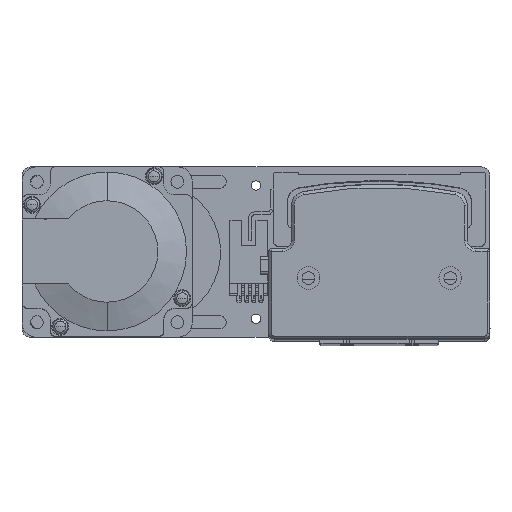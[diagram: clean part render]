
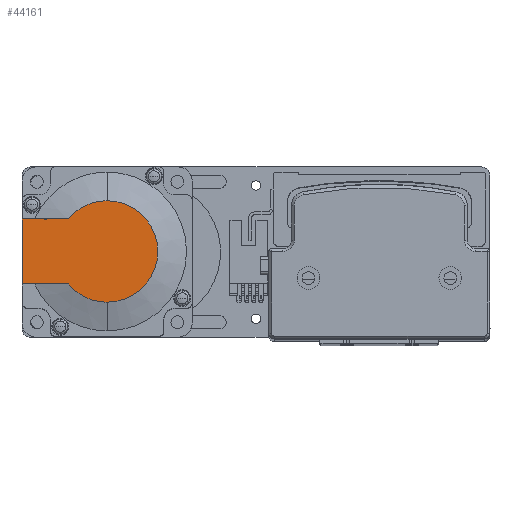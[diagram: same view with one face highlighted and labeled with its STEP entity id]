
A CAD part, top view. The second image highlights one B-rep face of the part: STEP entity #44161.
In plain terms, the highlighted planar face has unit normal (0, 0, 1) as drawn and (-1, 0, 0) by its records, which use the part's own axes.
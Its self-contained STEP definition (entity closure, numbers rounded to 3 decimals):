
#663 = VERTEX_POINT ( 'NONE', #9203 ) ;
#1043 = FACE_OUTER_BOUND ( 'NONE', #35519, .T. ) ;
#1990 = ORIENTED_EDGE ( 'NONE', *, *, #18536, .F. ) ;
#3435 = CARTESIAN_POINT ( 'NONE',  ( -118.5, 0., 0. ) ) ;
#3656 = AXIS2_PLACEMENT_3D ( 'NONE', #3435, #29713, #7281 ) ;
#3852 = CIRCLE ( 'NONE', #3656, 17.881 ) ;
#3861 = CIRCLE ( 'NONE', #14022, 17.881 ) ;
#4389 = ORIENTED_EDGE ( 'NONE', *, *, #28679, .T. ) ;
#4636 = AXIS2_PLACEMENT_3D ( 'NONE', #16061, #41977, #19861 ) ;
#5459 = CARTESIAN_POINT ( 'NONE',  ( -118.5, 30., -11.45 ) ) ;
#6891 = CARTESIAN_POINT ( 'NONE',  ( -118.5, 0., 0. ) ) ;
#7281 = DIRECTION ( 'NONE',  ( 0., 0., -1. ) ) ;
#8362 = CARTESIAN_POINT ( 'NONE',  ( -118.5, -8.941, -11.45 ) ) ;
#9203 = CARTESIAN_POINT ( 'NONE',  ( -118.5, 13.735, 11.45 ) ) ;
#10681 = DIRECTION ( 'NONE',  ( 0., 0., -1. ) ) ;
#10762 = VERTEX_POINT ( 'NONE', #5459 ) ;
#12080 = VERTEX_POINT ( 'NONE', #32711 ) ;
#12226 = VECTOR ( 'NONE', #15924, 1000. ) ;
#13155 = VERTEX_POINT ( 'NONE', #36417 ) ;
#13906 = CARTESIAN_POINT ( 'NONE',  ( -118.5, 0., -17.881 ) ) ;
#14022 = AXIS2_PLACEMENT_3D ( 'NONE', #6891, #33022, #10681 ) ;
#15924 = DIRECTION ( 'NONE',  ( 0., -1., 0. ) ) ;
#16061 = CARTESIAN_POINT ( 'NONE',  ( -118.5, 0., 0. ) ) ;
#16162 = EDGE_CURVE ( 'NONE', #10762, #12080, #41839, .T. ) ;
#16381 = VERTEX_POINT ( 'NONE', #39941 ) ;
#17677 = VECTOR ( 'NONE', #23958, 1000. ) ;
#17678 = VECTOR ( 'NONE', #37461, 1000. ) ;
#18043 = ORIENTED_EDGE ( 'NONE', *, *, #23261, .T. ) ;
#18536 = EDGE_CURVE ( 'NONE', #16381, #663, #27587, .T. ) ;
#18728 = DIRECTION ( 'NONE',  ( -1., 0., 0. ) ) ;
#19861 = DIRECTION ( 'NONE',  ( 0., 0., -1. ) ) ;
#22824 = EDGE_CURVE ( 'NONE', #12080, #33964, #3852, .T. ) ;
#23261 = EDGE_CURVE ( 'NONE', #13155, #663, #3861, .T. ) ;
#23958 = DIRECTION ( 'NONE',  ( 0., 0., 1. ) ) ;
#24069 = AXIS2_PLACEMENT_3D ( 'NONE', #40891, #18728, #44559 ) ;
#27587 = LINE ( 'NONE', #33757, #17678 ) ;
#28679 = EDGE_CURVE ( 'NONE', #33964, #13155, #35961, .T. ) ;
#29713 = DIRECTION ( 'NONE',  ( -1., 0., 0. ) ) ;
#31586 = CARTESIAN_POINT ( 'NONE',  ( -118.5, 30., 25. ) ) ;
#32114 = EDGE_CURVE ( 'NONE', #10762, #16381, #36275, .T. ) ;
#32711 = CARTESIAN_POINT ( 'NONE',  ( -118.5, 13.735, -11.45 ) ) ;
#33022 = DIRECTION ( 'NONE',  ( -1., 0., 0. ) ) ;
#33757 = CARTESIAN_POINT ( 'NONE',  ( -118.5, 0., 11.45 ) ) ;
#33964 = VERTEX_POINT ( 'NONE', #13906 ) ;
#34862 = ORIENTED_EDGE ( 'NONE', *, *, #22824, .T. ) ;
#35519 = EDGE_LOOP ( 'NONE', ( #40462, #34862, #4389, #18043, #1990, #38085 ) ) ;
#35961 = CIRCLE ( 'NONE', #4636, 17.881 ) ;
#36275 = LINE ( 'NONE', #31586, #17677 ) ;
#36417 = CARTESIAN_POINT ( 'NONE',  ( -118.5, 0., 17.881 ) ) ;
#37033 = PLANE ( 'NONE',  #24069 ) ;
#37461 = DIRECTION ( 'NONE',  ( 0., -1., 0. ) ) ;
#38085 = ORIENTED_EDGE ( 'NONE', *, *, #32114, .F. ) ;
#39941 = CARTESIAN_POINT ( 'NONE',  ( -118.5, 30., 11.45 ) ) ;
#40462 = ORIENTED_EDGE ( 'NONE', *, *, #16162, .T. ) ;
#40891 = CARTESIAN_POINT ( 'NONE',  ( -118.5, -8.941, 0. ) ) ;
#41839 = LINE ( 'NONE', #8362, #12226 ) ;
#41977 = DIRECTION ( 'NONE',  ( -1., 0., 0. ) ) ;
#44161 = ADVANCED_FACE ( 'NONE', ( #1043 ), #37033, .T. ) ;
#44559 = DIRECTION ( 'NONE',  ( 0., 0., 1. ) ) ;
